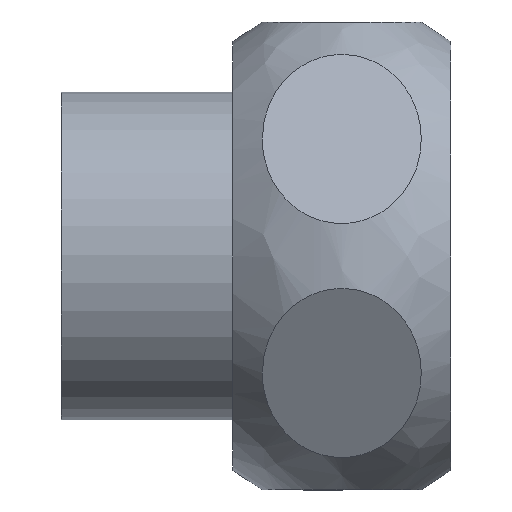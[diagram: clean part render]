
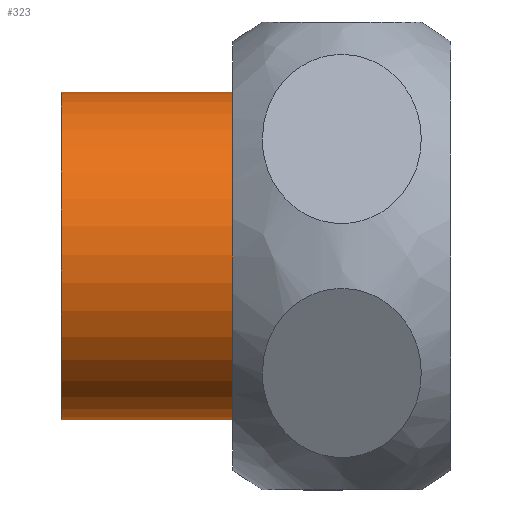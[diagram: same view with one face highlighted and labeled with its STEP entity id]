
A CAD part, front view. The second image highlights one B-rep face of the part: STEP entity #323.
In plain terms, the highlighted cylindrical face has radius 10.5 mm (diameter 21 mm), a full revolution.
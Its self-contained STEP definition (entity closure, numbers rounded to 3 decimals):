
#50=CYLINDRICAL_SURFACE('',#369,10.5);
#85=FACE_BOUND('',#153,.T.);
#110=FACE_OUTER_BOUND('',#152,.T.);
#152=EDGE_LOOP('',(#291));
#153=EDGE_LOOP('',(#292));
#179=CIRCLE('',#368,10.5);
#180=CIRCLE('',#370,10.5);
#207=VERTEX_POINT('',#929);
#208=VERTEX_POINT('',#932);
#237=EDGE_CURVE('',#207,#207,#179,.T.);
#238=EDGE_CURVE('',#208,#208,#180,.T.);
#291=ORIENTED_EDGE('',*,*,#238,.F.);
#292=ORIENTED_EDGE('',*,*,#237,.T.);
#323=ADVANCED_FACE('',(#110,#85),#50,.T.);
#368=AXIS2_PLACEMENT_3D('',#930,#456,#457);
#369=AXIS2_PLACEMENT_3D('',#931,#458,#459);
#370=AXIS2_PLACEMENT_3D('',#933,#460,#461);
#456=DIRECTION('center_axis',(1.,0.,0.));
#457=DIRECTION('ref_axis',(0.,1.,0.));
#458=DIRECTION('center_axis',(1.,0.,0.));
#459=DIRECTION('ref_axis',(0.,1.,0.));
#460=DIRECTION('center_axis',(1.,0.,0.));
#461=DIRECTION('ref_axis',(0.,1.,0.));
#929=CARTESIAN_POINT('',(5.953,10.5,0.));
#930=CARTESIAN_POINT('Origin',(5.953,0.,0.));
#931=CARTESIAN_POINT('Origin',(12.703,0.,0.));
#932=CARTESIAN_POINT('',(19.453,10.5,0.));
#933=CARTESIAN_POINT('Origin',(19.453,0.,0.));
